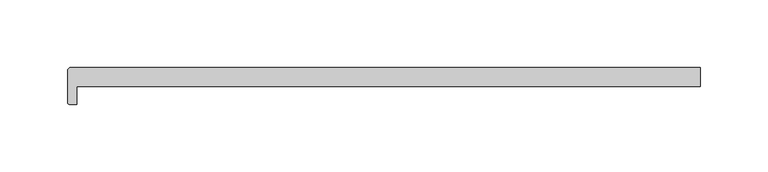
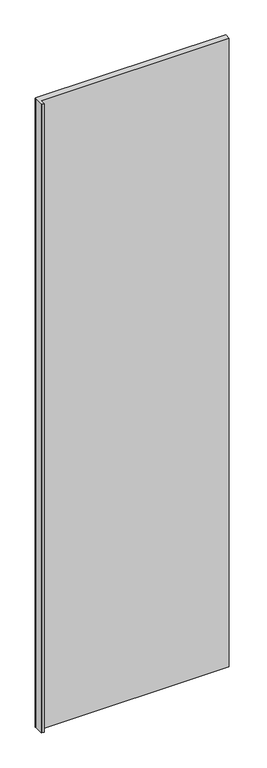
"""IFC4 building model written with IfcOpenShell, lengths in millimetres: plate geometry, Walls_Curtain-Walls_Danpal_NM : Walls_Curtain-Walls_Danpal_NM."""

import ifcopenshell
import ifcopenshell.guid

model = None  # the IFC model being written
_history = None  # IfcOwnerHistory: only IFC2X3 demands one
_inside = {}  # id of a spatial element -> (the spatial element, [elements in it])
_under = {}  # id of a project, library or spatial element -> (it, [spatial elements below it])
_declared = {}  # id of a project -> (the project, [libraries it declares])
_typed = {}  # id of a type object -> (the type object, [elements of that type])
_made_of = {}  # id of a material, layer set ... -> (it, [elements and type objects made of it])


def new_model(schema):
    """Start an empty IFC model of exactly this schema.

    Asked for "IFC4X3", IfcOpenShell would pick the latest addendum, in which some entities
    have other attributes; the version numbers below select the first issue.
    IFC2X3 requires an IfcOwnerHistory on every rooted entity: one is made here for all.
    """
    global model, _history
    if schema == "IFC4X3":
        model = ifcopenshell.file(schema_version=(4, 3, 0, 0))
    else:
        model = ifcopenshell.file(schema=schema)
    _inside.clear()
    _under.clear()
    _declared.clear()
    _typed.clear()
    _made_of.clear()
    _history = None
    if model.schema == "IFC2X3":
        org = make("IfcOrganization", Name="unknown")
        user = make(
            "IfcPersonAndOrganization",
            ThePerson=make("IfcPerson", FamilyName="unknown"),
            TheOrganization=org,
        )
        app = make(
            "IfcApplication",
            ApplicationDeveloper=org,
            Version="unknown",
            ApplicationFullName="unknown",
            ApplicationIdentifier="unknown",
        )
        _history = make(
            "IfcOwnerHistory",
            OwningUser=user,
            OwningApplication=app,
            ChangeAction="ADDED",
            CreationDate=0,
        )
    return model


def make(cls, **values):
    """One entity of the class cls with the attributes given. An attribute that is None is left unset."""
    return model.create_entity(
        cls, **{name: value for name, value in values.items() if value is not None}
    )


def rooted(cls, **values):
    """An entity with a GlobalId (a new one), such as an element, a storey or a relation."""
    return make(cls, GlobalId=ifcopenshell.guid.new(), OwnerHistory=_history, **values)


def si_unit(unit_type, name, prefix=None):
    """IfcSIUnit, for example si_unit("LENGTHUNIT", "METRE", prefix="MILLI")."""
    return make("IfcSIUnit", UnitType=unit_type, Prefix=prefix, Name=name)


def assignment(units):
    """IfcUnitAssignment: the units of a project."""
    return None if units is None else make("IfcUnitAssignment", Units=units)


def point(xyz):
    """IfcCartesianPoint."""
    return None if xyz is None else make("IfcCartesianPoint", Coordinates=xyz)


def direction(xyz):
    """IfcDirection."""
    return None if xyz is None else make("IfcDirection", DirectionRatios=xyz)


def frame(location, z_axis=None, x_axis=None):
    """IfcAxis2Placement3D, a coordinate frame: its origin and axes. An axis left out is left unset."""
    return make(
        "IfcAxis2Placement3D",
        Location=point(location),
        Axis=direction(z_axis),
        RefDirection=direction(x_axis),
    )


def frame_2d(location, x_axis=None):
    """IfcAxis2Placement2D, a coordinate frame in the plane: its origin and x axis."""
    return make(
        "IfcAxis2Placement2D", Location=point(location), RefDirection=direction(x_axis)
    )


def origin():
    """The frame at (0, 0, 0) with its axes left unset."""
    return frame((0.0, 0.0, 0.0))


def origin_with_axes():
    """The frame at (0, 0, 0) with the z axis (0, 0, 1) and the x axis (1, 0, 0) written out."""
    return frame((0.0, 0.0, 0.0), z_axis=(0.0, 0.0, 1.0), x_axis=(1.0, 0.0, 0.0))


def place(relative_to, where):
    """IfcLocalPlacement: puts the frame where relative to a parent placement (None: the world)."""
    return make(
        "IfcLocalPlacement", PlacementRelTo=relative_to, RelativePlacement=where
    )


def context(
    kind, dimensions, precision=None, world=None, true_north=None, identifier=None
):
    """IfcGeometricRepresentationContext, for example the 3D "Model" context."""
    return make(
        "IfcGeometricRepresentationContext",
        ContextIdentifier=identifier,
        ContextType=kind,
        CoordinateSpaceDimension=dimensions,
        Precision=precision,
        WorldCoordinateSystem=world,
        TrueNorth=true_north,
    )


def project(units=None, contexts=None):
    """IfcProject with its units and contexts."""
    return rooted(
        "IfcProject",
        Name="project",
        RepresentationContexts=contexts,
        UnitsInContext=assignment(units),
    )


def spatial(cls, under=None, at=None, **own):
    """A site, building, storey or space (cls), placed at a placement, below another one or the project."""
    s = rooted(cls, ObjectPlacement=at, **own)
    if under is not None:
        _under.setdefault(under.id(), (under, []))[1].append(s)
    return s


def polyline(points):
    """IfcPolyline through the points."""
    return make("IfcPolyline", Points=[point(p) for p in points])


def circle_curve(where, radius):
    """IfcCircle in the frame where."""
    return make("IfcCircle", Position=where, Radius=radius)


def trimmed(basis, trim1, trim2, sense, master):
    """IfcTrimmedCurve: the piece of a basis curve between two trims."""
    return make(
        "IfcTrimmedCurve",
        BasisCurve=basis,
        Trim1=trim1,
        Trim2=trim2,
        SenseAgreement=sense,
        MasterRepresentation=master,
    )


def segment(curve, same_sense, transition):
    """IfcCompositeCurveSegment."""
    return make(
        "IfcCompositeCurveSegment",
        Transition=transition,
        SameSense=same_sense,
        ParentCurve=curve,
    )


def composite_curve(segments, self_intersect=None):
    """IfcCompositeCurve: segments joined end to end."""
    return make("IfcCompositeCurve", Segments=segments, SelfIntersect=self_intersect)


def outline(outer, holes=None, kind="AREA"):
    """IfcArbitraryClosedProfileDef: a profile drawn as a closed curve; with holes, ...WithVoids."""
    if holes is None:
        return make("IfcArbitraryClosedProfileDef", ProfileType=kind, OuterCurve=outer)
    return make(
        "IfcArbitraryProfileDefWithVoids",
        ProfileType=kind,
        OuterCurve=outer,
        InnerCurves=holes,
    )


def extrude(swept, where, along, depth):
    """IfcExtrudedAreaSolid: the profile swept, set in the frame where, extruded along a direction by depth."""
    return make(
        "IfcExtrudedAreaSolid",
        SweptArea=swept,
        Position=where,
        ExtrudedDirection=direction(along),
        Depth=depth,
    )


def shape(context_of_items, identifier, shape_type, items):
    """IfcShapeRepresentation: the items that make up one representation, for example the "Body"."""
    return make(
        "IfcShapeRepresentation",
        ContextOfItems=context_of_items,
        RepresentationIdentifier=identifier,
        RepresentationType=shape_type,
        Items=items,
    )


def source(mapping_origin, context_of_items, identifier, shape_type, items):
    """IfcRepresentationMap: a shape defined once, which mapped items show again and again."""
    return make(
        "IfcRepresentationMap",
        MappingOrigin=mapping_origin,
        MappedRepresentation=shape(context_of_items, identifier, shape_type, items),
    )


def transform(
    local_origin,
    x_axis=None,
    y_axis=None,
    z_axis=None,
    scale=None,
    scale2=None,
    scale3=None,
    uniform=True,
):
    """IfcCartesianTransformationOperator3D, or its non-uniform kind. x_axis, y_axis, z_axis: its Axis1, 2, 3."""
    if uniform:
        return make(
            "IfcCartesianTransformationOperator3D",
            Axis1=direction(x_axis),
            Axis2=direction(y_axis),
            LocalOrigin=point(local_origin),
            Scale=scale,
            Axis3=direction(z_axis),
        )
    return make(
        "IfcCartesianTransformationOperator3DnonUniform",
        Axis1=direction(x_axis),
        Axis2=direction(y_axis),
        LocalOrigin=point(local_origin),
        Scale=scale,
        Axis3=direction(z_axis),
        Scale2=scale2,
        Scale3=scale3,
    )


def mapped(mapping_source, mapping_target):
    """IfcMappedItem: shows the shape of a source again, moved by a transform."""
    return make(
        "IfcMappedItem", MappingSource=mapping_source, MappingTarget=mapping_target
    )


def made_of(thing, what):
    """Note that an element or type object is made of a material, layer set ...; save() writes the relation."""
    if what is not None:
        _made_of.setdefault(what.id(), (what, []))[1].append(thing)
    return thing


def element(
    cls,
    number,
    at=None,
    inside=None,
    cuts=None,
    type_object=None,
    material=None,
    context=None,
    identifier="Body",
    shape_type=None,
    held_by="IfcProductDefinitionShape",
    body=None,
    shapes=None,
    **own,
):
    """One element of the class cls, such as IfcWall. Its Tag is "e" and its number.

    at: its placement. inside: the storey or other place that contains it. cuts: it is an
    opening in that element (IfcRelVoidsElement). A single representation is given by context,
    identifier, shape_type and body (its items); several are given by shapes. held_by: the class
    of the entity that holds the representations. save() writes the other relations.
    """
    e = rooted(cls, Tag="e%d" % number, ObjectPlacement=at, **own)
    if body is not None:
        shapes = [shape(context, identifier, shape_type, body)]
    if shapes is not None:
        e.Representation = make(held_by, Representations=shapes)
    if inside is not None:
        _inside.setdefault(inside.id(), (inside, []))[1].append(e)
    if cuts is not None:
        rooted(
            "IfcRelVoidsElement", RelatingBuildingElement=cuts, RelatedOpeningElement=e
        )
    if type_object is not None:
        _typed.setdefault(type_object.id(), (type_object, []))[1].append(e)
    return made_of(e, material)


def aggregate(whole, parts):
    """IfcRelAggregates: a whole, such as a stair, and the parts it consists of."""
    return rooted("IfcRelAggregates", RelatingObject=whole, RelatedObjects=parts)


def save(model, path):
    """Write the relations noted so far, then the file.

    IfcRelAggregates (storeys below a building ...), IfcRelContainedInSpatialStructure (elements
    in a storey), IfcRelDefinesByType, IfcRelAssociatesMaterial and IfcRelDeclares: one each for
    every whole, place, type object, material and project.
    """
    for whole, parts in _under.values():
        aggregate(whole, parts)
    for where, things in _inside.values():
        rooted(
            "IfcRelContainedInSpatialStructure",
            RelatedElements=things,
            RelatingStructure=where,
        )
    for kind, things in _typed.values():
        rooted("IfcRelDefinesByType", RelatedObjects=things, RelatingType=kind)
    for what, things in _made_of.values():
        rooted("IfcRelAssociatesMaterial", RelatedObjects=things, RelatingMaterial=what)
    for by, libraries in _declared.values():
        rooted("IfcRelDeclares", RelatingContext=by, RelatedDefinitions=libraries)
    model.write(path)


def plate_0e341a54(model_context):
    return source(origin(), model_context, "Body", "SweptSolid", [
        extrude(outline(composite_curve([segment(polyline([(-227.3713805, -14.1225989), (-227.3713805, -27.3924397), (-233.0459399, -27.3924397)]), True, "CONTINUOUS"), segment(trimmed(circle_curve(frame_2d((-233.0459399, -26.0669991)), 1.3254406), [point((-233.0459399, -27.3924397))], [point((-234.3713805, -26.0669991))], False, "CARTESIAN"), True, "CONTINUOUS"), segment(polyline([(-234.3713805, -26.0669991), (-234.3713805, -2.6508813)]), True, "CONTINUOUS"), segment(trimmed(circle_curve(frame_2d((-231.7204993, -2.6508813)), 2.6508813), [point((-234.3713805, -2.6508813))], [point((-231.7204993, 0.0))], False, "CARTESIAN"), True, "CONTINUOUS"), segment(polyline([(-231.7204993, 0.0), (234.3713805, 0.0), (234.3713805, -14.136425), (-227.3713805, -14.1225989)]), True, "CONTINUOUS")], self_intersect=False)), origin_with_axes(), (0.0, 0.0, 1.0), 1629.047587),
    ])


if __name__ == "__main__":
    model = new_model("IFC4")
    model_context = context("Model", 3, world=origin())
    ifc_project = project(units=[si_unit("LENGTHUNIT", "METRE", prefix="MILLI")], contexts=[model_context])
    site = spatial("IfcSite", under=ifc_project)
    building = spatial("IfcBuilding", under=site)
    placement = place(None, origin())
    plate_shape = plate_0e341a54(model_context)
    element("IfcPlate", 1, ObjectType="Walls_Curtain-Walls_Danpal_NM : Walls_Curtain-Walls_Danpal_NM", at=placement, inside=building, context=model_context, shape_type="MappedRepresentation", body=[
        mapped(plate_shape, transform((0.0, 0.0, 0.0), x_axis=(1.0, 0.0, 0.0), y_axis=(0.0, 1.0, 0.0), z_axis=(0.0, 0.0, 1.0))),
    ])
    save(model, "model.ifc")
